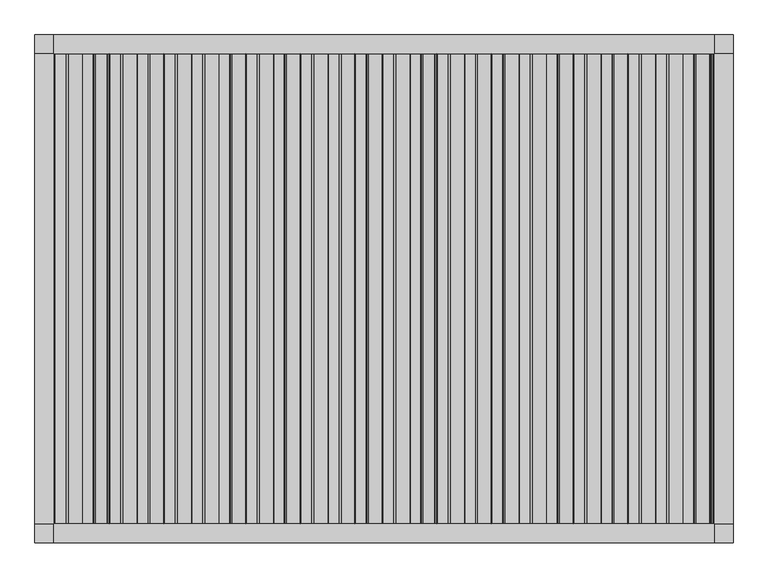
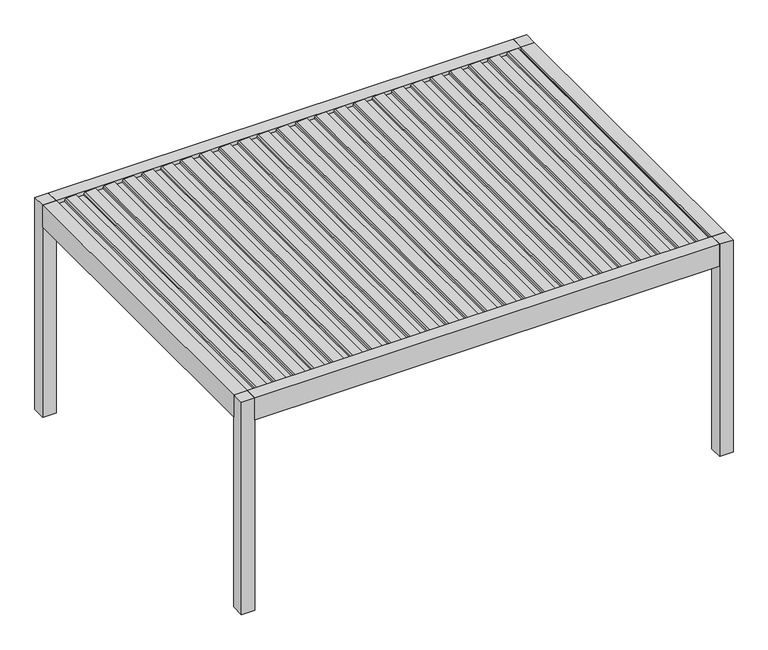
"""IFC4 building model written with IfcOpenShell, lengths in millimetres: proxy geometry, Renson_Camargue_Freestanding_Patio covers : Renson_Camargue_Freestanding_Patio covers."""

from ifc_helpers import new_model, si_unit, point, frame, frame_2d, origin, origin_with_axes, place, context, project, spatial, polyline, circle_curve, trimmed, segment, composite_curve, outline, extrude, source, transform, mapped, element, save


def generic_models_e222f84e(model_context):
    return source(origin(), model_context, "Body", "SweptSolid", [
        extrude(outline(composite_curve([segment(polyline([(2458.35, 2323.7371235), (2486.01198, 2326.1572332), (2487.3970364, 2354.9924836), (2506.8911096, 2351.5551526), (2501.6075693, 2241.5580377)]), True, "CONTINUOUS"), segment(trimmed(circle_curve(frame_2d((2486.6248435, 2242.2777096)), 15.0), [point((2501.6075693, 2241.5580377))], [point((2489.2295662, 2227.5055933))], False, "CARTESIAN"), True, "CONTINUOUS"), segment(polyline([(2489.2295662, 2227.5055933), (2470.0, 2224.114902), (2470.0, 2136.379126), (2487.0788237, 2133.3676686), (2486.3450182, 2118.0906981), (2458.35, 2115.6414514), (2458.35, 2323.7371235)]), True, "CONTINUOUS")], self_intersect=False)), frame((0.0, -1850.0, 0.0), z_axis=(0.0, 1.0, 0.0), x_axis=(0.0, 0.0, 1.0)), (0.0, 0.0, 1.0), 3700.0),
        extrude(outline(composite_curve([segment(polyline([(2458.35, 2108.7296071), (2486.01198, 2111.1497168), (2487.3970364, 2139.9849673), (2506.8911096, 2136.5476362), (2501.6075693, 2026.5505213)]), True, "CONTINUOUS"), segment(trimmed(circle_curve(frame_2d((2486.6248435, 2027.2701933)), 15.0), [point((2501.6075693, 2026.5505213))], [point((2489.2295662, 2012.498077))], False, "CARTESIAN"), True, "CONTINUOUS"), segment(polyline([(2489.2295662, 2012.498077), (2470.0, 2009.1073856), (2470.0, 1921.3716096), (2487.0788237, 1918.3601522), (2486.3450182, 1903.0831817), (2458.35, 1900.633935), (2458.35, 2108.7296071)]), True, "CONTINUOUS")], self_intersect=False)), frame((0.0, -1850.0, 0.0), z_axis=(0.0, 1.0, 0.0), x_axis=(0.0, 0.0, 1.0)), (0.0, 0.0, 1.0), 3700.0),
        extrude(outline(composite_curve([segment(polyline([(2458.35, 1893.7220908), (2486.01198, 1896.1422004), (2487.3970364, 1924.9774509), (2506.8911096, 1921.5401198), (2501.6075693, 1811.543005)]), True, "CONTINUOUS"), segment(trimmed(circle_curve(frame_2d((2486.6248435, 1812.2626769)), 15.0), [point((2501.6075693, 1811.543005))], [point((2489.2295662, 1797.4905606))], False, "CARTESIAN"), True, "CONTINUOUS"), segment(polyline([(2489.2295662, 1797.4905606), (2470.0, 1794.0998693), (2470.0, 1706.3640932), (2487.0788237, 1703.3526358), (2486.3450182, 1688.0756653), (2458.35, 1685.6264186), (2458.35, 1893.7220908)]), True, "CONTINUOUS")], self_intersect=False)), frame((0.0, -1850.0, 0.0), z_axis=(0.0, 1.0, 0.0), x_axis=(0.0, 0.0, 1.0)), (0.0, 0.0, 1.0), 3700.0),
        extrude(outline(composite_curve([segment(polyline([(2458.35, 1678.7145744), (2486.01198, 1681.1346841), (2487.3970364, 1709.9699345), (2506.8911096, 1706.5326034), (2501.6075693, 1596.5354886)]), True, "CONTINUOUS"), segment(trimmed(circle_curve(frame_2d((2486.6248435, 1597.2551605)), 15.0), [point((2501.6075693, 1596.5354886))], [point((2489.2295662, 1582.4830442))], False, "CARTESIAN"), True, "CONTINUOUS"), segment(polyline([(2489.2295662, 1582.4830442), (2470.0, 1579.0923529), (2470.0, 1491.3565769), (2487.0788237, 1488.3451194), (2486.3450182, 1473.068149), (2458.35, 1470.6189022), (2458.35, 1678.7145744)]), True, "CONTINUOUS")], self_intersect=False)), frame((0.0, -1850.0, 0.0), z_axis=(0.0, 1.0, 0.0), x_axis=(0.0, 0.0, 1.0)), (0.0, 0.0, 1.0), 3700.0),
        extrude(outline(composite_curve([segment(polyline([(2458.35, 1463.707058), (2486.01198, 1466.1271677), (2487.3970364, 1494.9624182), (2506.8911096, 1491.5250871), (2501.6075693, 1381.5279722)]), True, "CONTINUOUS"), segment(trimmed(circle_curve(frame_2d((2486.6248435, 1382.2476442)), 15.0), [point((2501.6075693, 1381.5279722))], [point((2489.2295662, 1367.4755279))], False, "CARTESIAN"), True, "CONTINUOUS"), segment(polyline([(2489.2295662, 1367.4755279), (2470.0, 1364.0848365), (2470.0, 1276.3490605), (2487.0788237, 1273.3376031), (2486.3450182, 1258.0606326), (2458.35, 1255.6113859), (2458.35, 1463.707058)]), True, "CONTINUOUS")], self_intersect=False)), frame((0.0, -1850.0, 0.0), z_axis=(0.0, 1.0, 0.0), x_axis=(0.0, 0.0, 1.0)), (0.0, 0.0, 1.0), 3700.0),
        extrude(outline(composite_curve([segment(polyline([(2458.35, 1248.6995417), (2486.01198, 1251.1196513), (2487.3970364, 1279.9549018), (2506.8911096, 1276.5175707), (2501.6075693, 1166.5204559)]), True, "CONTINUOUS"), segment(trimmed(circle_curve(frame_2d((2486.6248435, 1167.2401278)), 15.0), [point((2501.6075693, 1166.5204559))], [point((2489.2295662, 1152.4680115))], False, "CARTESIAN"), True, "CONTINUOUS"), segment(polyline([(2489.2295662, 1152.4680115), (2470.0, 1149.0773201), (2470.0, 1061.3415441), (2487.0788237, 1058.3300867), (2486.3450182, 1043.0531162), (2458.35, 1040.6038695), (2458.35, 1248.6995417)]), True, "CONTINUOUS")], self_intersect=False)), frame((0.0, -1850.0, 0.0), z_axis=(0.0, 1.0, 0.0), x_axis=(0.0, 0.0, 1.0)), (0.0, 0.0, 1.0), 3700.0),
        extrude(outline(composite_curve([segment(polyline([(2458.35, 1033.6920253), (2486.01198, 1036.112135), (2487.3970364, 1064.9473854), (2506.8911096, 1061.5100543), (2501.6075693, 951.5129395)]), True, "CONTINUOUS"), segment(trimmed(circle_curve(frame_2d((2486.6248435, 952.2326114)), 15.0), [point((2501.6075693, 951.5129395))], [point((2489.2295662, 937.4604951))], False, "CARTESIAN"), True, "CONTINUOUS"), segment(polyline([(2489.2295662, 937.4604951), (2470.0, 934.0698038), (2470.0, 846.3340277), (2487.0788237, 843.3225703), (2486.3450182, 828.0455999), (2458.35, 825.5963531), (2458.35, 1033.6920253)]), True, "CONTINUOUS")], self_intersect=False)), frame((0.0, -1850.0, 0.0), z_axis=(0.0, 1.0, 0.0), x_axis=(0.0, 0.0, 1.0)), (0.0, 0.0, 1.0), 3700.0),
        extrude(outline(composite_curve([segment(polyline([(2458.35, 818.6845089), (2486.01198, 821.1046186), (2487.3970364, 849.939869), (2506.8911096, 846.502538), (2501.6075693, 736.5054231)]), True, "CONTINUOUS"), segment(trimmed(circle_curve(frame_2d((2486.6248435, 737.225095)), 15.0), [point((2501.6075693, 736.5054231))], [point((2489.2295662, 722.4529787))], False, "CARTESIAN"), True, "CONTINUOUS"), segment(polyline([(2489.2295662, 722.4529787), (2470.0, 719.0622874), (2470.0, 631.3265114), (2487.0788237, 628.315054), (2486.3450182, 613.0380835), (2458.35, 610.5888368), (2458.35, 818.6845089)]), True, "CONTINUOUS")], self_intersect=False)), frame((0.0, -1850.0, 0.0), z_axis=(0.0, 1.0, 0.0), x_axis=(0.0, 0.0, 1.0)), (0.0, 0.0, 1.0), 3700.0),
        extrude(outline(composite_curve([segment(polyline([(2458.35, 603.6769926), (2486.01198, 606.0971022), (2487.3970364, 634.9323527), (2506.8911096, 631.4950216), (2501.6075693, 521.4979067)]), True, "CONTINUOUS"), segment(trimmed(circle_curve(frame_2d((2486.6248435, 522.2175787)), 15.0), [point((2501.6075693, 521.4979067))], [point((2489.2295662, 507.4454624))], False, "CARTESIAN"), True, "CONTINUOUS"), segment(polyline([(2489.2295662, 507.4454624), (2470.0, 504.054771), (2470.0, 416.318995), (2487.0788237, 413.3075376), (2486.3450182, 398.0305671), (2458.35, 395.5813204), (2458.35, 603.6769926)]), True, "CONTINUOUS")], self_intersect=False)), frame((0.0, -1850.0, 0.0), z_axis=(0.0, 1.0, 0.0), x_axis=(0.0, 0.0, 1.0)), (0.0, 0.0, 1.0), 3700.0),
        extrude(outline(composite_curve([segment(polyline([(2458.35, 388.6694762), (2486.01198, 391.0895858), (2487.3970364, 419.9248363), (2506.8911096, 416.4875052), (2501.6075693, 306.4903904)]), True, "CONTINUOUS"), segment(trimmed(circle_curve(frame_2d((2486.6248435, 307.2100623)), 15.0), [point((2501.6075693, 306.4903904))], [point((2489.2295662, 292.437946))], False, "CARTESIAN"), True, "CONTINUOUS"), segment(polyline([(2489.2295662, 292.437946), (2470.0, 289.0472547), (2470.0, 201.3114786), (2487.0788237, 198.3000212), (2486.3450182, 183.0230508), (2458.35, 180.573804), (2458.35, 388.6694762)]), True, "CONTINUOUS")], self_intersect=False)), frame((0.0, -1850.0, 0.0), z_axis=(0.0, 1.0, 0.0), x_axis=(0.0, 0.0, 1.0)), (0.0, 0.0, 1.0), 3700.0),
        extrude(outline(composite_curve([segment(polyline([(2458.35, 173.6619598), (2486.01198, 176.0820695), (2487.3970364, 204.9173199), (2506.8911096, 201.4799889), (2501.6075693, 91.482874)]), True, "CONTINUOUS"), segment(trimmed(circle_curve(frame_2d((2486.6248435, 92.2025459)), 15.0), [point((2501.6075693, 91.482874))], [point((2489.2295662, 77.4304296))], False, "CARTESIAN"), True, "CONTINUOUS"), segment(polyline([(2489.2295662, 77.4304296), (2470.0, 74.0397383), (2470.0, -13.6960377), (2487.0788237, -16.7074951), (2486.3450182, -31.9844656), (2458.35, -34.4337123), (2458.35, 173.6619598)]), True, "CONTINUOUS")], self_intersect=False)), frame((0.0, -1850.0, 0.0), z_axis=(0.0, 1.0, 0.0), x_axis=(0.0, 0.0, 1.0)), (0.0, 0.0, 1.0), 3700.0),
        extrude(outline(composite_curve([segment(polyline([(2458.35, -41.3455566), (2486.01198, -38.9254469), (2487.3970364, -10.0901964), (2506.8911096, -13.5275275), (2501.6075693, -123.5246424)]), True, "CONTINUOUS"), segment(trimmed(circle_curve(frame_2d((2486.6248435, -122.8049704)), 15.0), [point((2501.6075693, -123.5246424))], [point((2489.2295662, -137.5770867))], False, "CARTESIAN"), True, "CONTINUOUS"), segment(polyline([(2489.2295662, -137.5770867), (2470.0, -140.9677781), (2470.0, -228.7035541), (2487.0788237, -231.7150115), (2486.3450182, -246.991982), (2458.35, -249.4412287), (2458.35, -41.3455566)]), True, "CONTINUOUS")], self_intersect=False)), frame((0.0, -1850.0, 0.0), z_axis=(0.0, 1.0, 0.0), x_axis=(0.0, 0.0, 1.0)), (0.0, 0.0, 1.0), 3700.0),
        extrude(outline(composite_curve([segment(polyline([(2458.35, -256.3530729), (2486.01198, -253.9329633), (2487.3970364, -225.0977128), (2506.8911096, -228.5350439), (2501.6075693, -338.5321587)]), True, "CONTINUOUS"), segment(trimmed(circle_curve(frame_2d((2486.6248435, -337.8124868)), 15.0), [point((2501.6075693, -338.5321587))], [point((2489.2295662, -352.5846031))], False, "CARTESIAN"), True, "CONTINUOUS"), segment(polyline([(2489.2295662, -352.5846031), (2470.0, -355.9752944), (2470.0, -443.7110705), (2487.0788237, -446.7225279), (2486.3450182, -461.9994984), (2458.35, -464.4487451), (2458.35, -256.3530729)]), True, "CONTINUOUS")], self_intersect=False)), frame((0.0, -1850.0, 0.0), z_axis=(0.0, 1.0, 0.0), x_axis=(0.0, 0.0, 1.0)), (0.0, 0.0, 1.0), 3700.0),
        extrude(outline(composite_curve([segment(polyline([(2458.35, -471.3605893), (2486.01198, -468.9404796), (2487.3970364, -440.1052292), (2506.8911096, -443.5425603), (2501.6075693, -553.5396751)]), True, "CONTINUOUS"), segment(trimmed(circle_curve(frame_2d((2486.6248435, -552.8200032)), 15.0), [point((2501.6075693, -553.5396751))], [point((2489.2295662, -567.5921195))], False, "CARTESIAN"), True, "CONTINUOUS"), segment(polyline([(2489.2295662, -567.5921195), (2470.0, -570.9828108), (2470.0, -658.7185868), (2487.0788237, -661.7300443), (2486.3450182, -677.0070147), (2458.35, -679.4562615), (2458.35, -471.3605893)]), True, "CONTINUOUS")], self_intersect=False)), frame((0.0, -1850.0, 0.0), z_axis=(0.0, 1.0, 0.0), x_axis=(0.0, 0.0, 1.0)), (0.0, 0.0, 1.0), 3700.0),
        extrude(outline(composite_curve([segment(polyline([(2458.35, -686.3681057), (2486.01198, -683.947996), (2487.3970364, -655.1127455), (2506.8911096, -658.5500766), (2501.6075693, -768.5471915)]), True, "CONTINUOUS"), segment(trimmed(circle_curve(frame_2d((2486.6248435, -767.8275195)), 15.0), [point((2501.6075693, -768.5471915))], [point((2489.2295662, -782.5996358))], False, "CARTESIAN"), True, "CONTINUOUS"), segment(polyline([(2489.2295662, -782.5996358), (2470.0, -785.9903272), (2470.0, -873.7261032), (2487.0788237, -876.7375606), (2486.3450182, -892.0145311), (2458.35, -894.4637778), (2458.35, -686.3681057)]), True, "CONTINUOUS")], self_intersect=False)), frame((0.0, -1850.0, 0.0), z_axis=(0.0, 1.0, 0.0), x_axis=(0.0, 0.0, 1.0)), (0.0, 0.0, 1.0), 3700.0),
        extrude(outline(composite_curve([segment(polyline([(2458.35, -901.375622), (2486.01198, -898.9555124), (2487.3970364, -870.1202619), (2506.8911096, -873.557593), (2501.6075693, -983.5547078)]), True, "CONTINUOUS"), segment(trimmed(circle_curve(frame_2d((2486.6248435, -982.8350359)), 15.0), [point((2501.6075693, -983.5547078))], [point((2489.2295662, -997.6071522))], False, "CARTESIAN"), True, "CONTINUOUS"), segment(polyline([(2489.2295662, -997.6071522), (2470.0, -1000.9978436), (2470.0, -1088.7336196), (2487.0788237, -1091.745077), (2486.3450182, -1107.0220475), (2458.35, -1109.4712942), (2458.35, -901.375622)]), True, "CONTINUOUS")], self_intersect=False)), frame((0.0, -1850.0, 0.0), z_axis=(0.0, 1.0, 0.0), x_axis=(0.0, 0.0, 1.0)), (0.0, 0.0, 1.0), 3700.0),
        extrude(outline(composite_curve([segment(polyline([(2458.35, -1116.3831384), (2486.01198, -1113.9630287), (2487.3970364, -1085.1277783), (2506.8911096, -1088.5651094), (2501.6075693, -1198.5622242)]), True, "CONTINUOUS"), segment(trimmed(circle_curve(frame_2d((2486.6248435, -1197.8425523)), 15.0), [point((2501.6075693, -1198.5622242))], [point((2489.2295662, -1212.6146686))], False, "CARTESIAN"), True, "CONTINUOUS"), segment(polyline([(2489.2295662, -1212.6146686), (2470.0, -1216.0053599), (2470.0, -1303.741136), (2487.0788237, -1306.7525934), (2486.3450182, -1322.0295638), (2458.35, -1324.4788106), (2458.35, -1116.3831384)]), True, "CONTINUOUS")], self_intersect=False)), frame((0.0, -1850.0, 0.0), z_axis=(0.0, 1.0, 0.0), x_axis=(0.0, 0.0, 1.0)), (0.0, 0.0, 1.0), 3700.0),
        extrude(outline(composite_curve([segment(polyline([(2458.35, -1331.3906548), (2486.01198, -1328.9705451), (2487.3970364, -1300.1352947), (2506.8911096, -1303.5726257), (2501.6075693, -1413.5697406)]), True, "CONTINUOUS"), segment(trimmed(circle_curve(frame_2d((2486.6248435, -1412.8500687)), 15.0), [point((2501.6075693, -1413.5697406))], [point((2489.2295662, -1427.6221849))], False, "CARTESIAN"), True, "CONTINUOUS"), segment(polyline([(2489.2295662, -1427.6221849), (2470.0, -1431.0128763), (2470.0, -1518.7486523), (2487.0788237, -1521.7601097), (2486.3450182, -1537.0370802), (2458.35, -1539.4863269), (2458.35, -1331.3906548)]), True, "CONTINUOUS")], self_intersect=False)), frame((0.0, -1850.0, 0.0), z_axis=(0.0, 1.0, 0.0), x_axis=(0.0, 0.0, 1.0)), (0.0, 0.0, 1.0), 3700.0),
        extrude(outline(composite_curve([segment(polyline([(2458.35, -1546.3981711), (2486.01198, -1543.9780615), (2487.3970364, -1515.142811), (2506.8911096, -1518.5801421), (2501.6075693, -1628.577257)]), True, "CONTINUOUS"), segment(trimmed(circle_curve(frame_2d((2486.6248435, -1627.857585)), 15.0), [point((2501.6075693, -1628.577257))], [point((2489.2295662, -1642.6297013))], False, "CARTESIAN"), True, "CONTINUOUS"), segment(polyline([(2489.2295662, -1642.6297013), (2470.0, -1646.0203927), (2470.0, -1733.7561687), (2487.0788237, -1736.7676261), (2486.3450182, -1752.0445966), (2458.35, -1754.4938433), (2458.35, -1546.3981711)]), True, "CONTINUOUS")], self_intersect=False)), frame((0.0, -1850.0, 0.0), z_axis=(0.0, 1.0, 0.0), x_axis=(0.0, 0.0, 1.0)), (0.0, 0.0, 1.0), 3700.0),
        extrude(outline(composite_curve([segment(polyline([(2458.35, -1761.4056875), (2486.01198, -1758.9855779), (2487.3970364, -1730.1503274), (2506.8911096, -1733.5876585), (2501.6075693, -1843.5847733)]), True, "CONTINUOUS"), segment(trimmed(circle_curve(frame_2d((2486.6248435, -1842.8651014)), 15.0), [point((2501.6075693, -1843.5847733))], [point((2489.2295662, -1857.6372177))], False, "CARTESIAN"), True, "CONTINUOUS"), segment(polyline([(2489.2295662, -1857.6372177), (2470.0, -1861.027909), (2470.0, -1948.7636851), (2487.0788237, -1951.7751425), (2486.3450182, -1967.0521129), (2458.35, -1969.5013597), (2458.35, -1761.4056875)]), True, "CONTINUOUS")], self_intersect=False)), frame((0.0, -1850.0, 0.0), z_axis=(0.0, 1.0, 0.0), x_axis=(0.0, 0.0, 1.0)), (0.0, 0.0, 1.0), 3700.0),
        extrude(outline(composite_curve([segment(polyline([(2458.35, -1976.4132039), (2486.01198, -1973.9930942), (2487.3970364, -1945.1578438), (2506.8911096, -1948.5951748), (2501.6075693, -2058.5922897)]), True, "CONTINUOUS"), segment(trimmed(circle_curve(frame_2d((2486.6248435, -2057.8726178)), 15.0), [point((2501.6075693, -2058.5922897))], [point((2489.2295662, -2072.6447341))], False, "CARTESIAN"), True, "CONTINUOUS"), segment(polyline([(2489.2295662, -2072.6447341), (2470.0, -2076.0354254), (2470.0, -2163.7712014), (2487.0788237, -2166.7826588), (2486.3450182, -2182.0596293), (2458.35, -2184.508876), (2458.35, -1976.4132039)]), True, "CONTINUOUS")], self_intersect=False)), frame((0.0, -1850.0, 0.0), z_axis=(0.0, 1.0, 0.0), x_axis=(0.0, 0.0, 1.0)), (0.0, 0.0, 1.0), 3700.0),
        extrude(outline(composite_curve([segment(polyline([(2458.35, -2191.4207203), (2486.01198, -2189.0006106), (2487.3970364, -2160.1653601), (2506.8911096, -2163.6026912), (2501.6075693, -2273.5998061)]), True, "CONTINUOUS"), segment(trimmed(circle_curve(frame_2d((2486.6248435, -2272.8801341)), 15.0), [point((2501.6075693, -2273.5998061))], [point((2489.2295662, -2287.6522504))], False, "CARTESIAN"), True, "CONTINUOUS"), segment(polyline([(2489.2295662, -2287.6522504), (2470.0, -2291.0429418), (2470.0, -2378.7787178), (2487.0788237, -2381.7901752), (2486.3450182, -2397.0671457), (2458.35, -2399.5163924), (2458.35, -2191.4207203)]), True, "CONTINUOUS")], self_intersect=False)), frame((0.0, -1850.0, 0.0), z_axis=(0.0, 1.0, 0.0), x_axis=(0.0, 0.0, 1.0)), (0.0, 0.0, 1.0), 3700.0),
        extrude(outline(composite_curve([segment(polyline([(2458.35, 2538.7446399), (2486.01198, 2541.1647495), (2487.3970364, 2570.0), (2506.8911096, 2566.5626689), (2501.6075693, 2456.5655541)]), True, "CONTINUOUS"), segment(trimmed(circle_curve(frame_2d((2486.6248435, 2457.285226)), 15.0), [point((2501.6075693, 2456.5655541))], [point((2489.2295662, 2442.5131097))], False, "CARTESIAN"), True, "CONTINUOUS"), segment(polyline([(2489.2295662, 2442.5131097), (2470.0, 2439.1224184), (2470.0, 2351.3866423), (2487.0788237, 2348.3751849), (2486.3450182, 2333.0982144), (2458.35, 2330.6489677), (2458.35, 2538.7446399)]), True, "CONTINUOUS")], self_intersect=False)), frame((0.0, -1850.0, 0.0), z_axis=(0.0, 1.0, 0.0), x_axis=(0.0, 0.0, 1.0)), (0.0, 0.0, 1.0), 3700.0),
        extrude(outline(composite_curve([segment(polyline([(2458.35, -2406.4282366), (2486.01198, -2404.008127), (2487.3970364, -2375.1728765), (2506.8911096, -2378.6102076), (2501.6075693, -2488.6073224)]), True, "CONTINUOUS"), segment(trimmed(circle_curve(frame_2d((2486.6248435, -2487.8876505)), 15.0), [point((2501.6075693, -2488.6073224))], [point((2489.2295662, -2502.6597668))], False, "CARTESIAN"), True, "CONTINUOUS"), segment(polyline([(2489.2295662, -2502.6597668), (2470.0, -2506.0504581), (2470.0, -2593.7862342), (2487.0788237, -2596.7976916), (2486.3450182, -2612.0746621), (2458.35, -2614.5239088), (2458.35, -2406.4282366)]), True, "CONTINUOUS")], self_intersect=False)), frame((0.0, -1850.0, 0.0), z_axis=(0.0, 1.0, 0.0), x_axis=(0.0, 0.0, 1.0)), (0.0, 0.0, 1.0), 3700.0),
        extrude(outline(polyline([(2441.6559373, -2600.0), (2441.6559373, -2574.0), (2455.6555802, -2570.2487113), (2455.6555802, -2579.5940945), (2471.400763, -2595.0), (2479.2449277, -2595.0), (2479.6823598, -2600.0), (2441.6559373, -2600.0)])), frame((0.0, -1850.0, 0.0), z_axis=(0.0, 1.0, 0.0), x_axis=(0.0, 0.0, 1.0)), (0.0, 0.0, 1.0), 3700.0),
        extrude(outline(polyline([(-2600.0, -1850.0), (-2750.0, -1850.0), (-2750.0, 1850.0), (-2600.0, 1850.0), (-2600.0, -1850.0)])), frame((0.0, 0.0, 2250.0), z_axis=(0.0, 0.0, 1.0), x_axis=(1.0, 0.0, 0.0)), (0.0, 0.0, 1.0), 260.0),
        extrude(outline(polyline([(2510.0, 2750.0), (2510.0, 2600.0), (2479.6904658, 2600.0), (2479.2449277, 2595.0), (2471.400763, 2595.0), (2455.6555802, 2579.2544156), (2455.6555802, 2569.9090324), (2441.6559373, 2573.6603211), (2441.6559373, 2600.0), (2250.0, 2600.0), (2250.0, 2750.0), (2510.0, 2750.0)])), frame((0.0, -1850.0, 0.0), z_axis=(0.0, 1.0, 0.0), x_axis=(0.0, 0.0, 1.0)), (0.0, 0.0, 1.0), 3700.0),
        extrude(outline(polyline([(-1850.0, 2510.0), (-1850.0, 2322.0), (-1780.0000001, 2322.0), (-1780.0000001, 2250.0), (-2000.0, 2250.0), (-2000.0, 2510.0), (-1850.0, 2510.0)])), frame((-2600.0, 0.0, 0.0), z_axis=(1.0, 0.0, 0.0), x_axis=(0.0, 1.0, 0.0)), (0.0, 0.0, 1.0), 5200.0),
        extrude(outline(polyline([(2000.0, 2250.0), (1780.0000001, 2250.0), (1780.0000001, 2322.0), (1850.0, 2322.0), (1850.0, 2510.0), (2000.0, 2510.0), (2000.0, 2250.0)])), frame((-2600.0, 0.0, 0.0), z_axis=(1.0, 0.0, 0.0), x_axis=(0.0, 1.0, 0.0)), (0.0, 0.0, 1.0), 5200.0),
        extrude(outline(polyline([(-2600.0, 2000.0), (-2600.0, 1850.0), (-2750.0, 1850.0), (-2750.0, 2000.0), (-2600.0, 2000.0)])), origin_with_axes(), (0.0, 0.0, 1.0), 2510.0),
        extrude(outline(polyline([(2750.0, 2000.0), (2750.0, 1850.0), (2600.0, 1850.0), (2600.0, 2000.0), (2750.0, 2000.0)])), origin_with_axes(), (0.0, 0.0, 1.0), 2510.0),
        extrude(outline(polyline([(2750.0, -1850.0), (2750.0, -2000.0), (2600.0, -2000.0), (2600.0, -1850.0), (2750.0, -1850.0)])), origin_with_axes(), (0.0, 0.0, 1.0), 2510.0),
        extrude(outline(polyline([(-2600.0, -1850.0), (-2600.0, -2000.0), (-2750.0, -2000.0), (-2750.0, -1850.0), (-2600.0, -1850.0)])), origin_with_axes(), (0.0, 0.0, 1.0), 2510.0),
    ])


if __name__ == "__main__":
    model = new_model("IFC4")
    model_context = context("Model", 3, world=origin())
    ifc_project = project(units=[si_unit("LENGTHUNIT", "METRE", prefix="MILLI")], contexts=[model_context])
    site = spatial("IfcSite", under=ifc_project)
    building = spatial("IfcBuilding", under=site)
    placement = place(None, origin())
    generic_models_shape = generic_models_e222f84e(model_context)
    element("IfcBuildingElementProxy", 1, Name="Renson_Camargue_Freestanding_Patio covers : Renson_Camargue_Freestanding_Patio covers", ObjectType="Renson_Camargue_Freestanding_Patio covers : Renson_Camargue_Freestanding_Patio covers", at=placement, inside=building, context=model_context, shape_type="MappedRepresentation", body=[
        mapped(generic_models_shape, transform((0.0, 0.0, 0.0), x_axis=(1.0, 0.0, 0.0), y_axis=(0.0, 1.0, 0.0), z_axis=(0.0, 0.0, 1.0))),
    ])
    save(model, "model.ifc")
